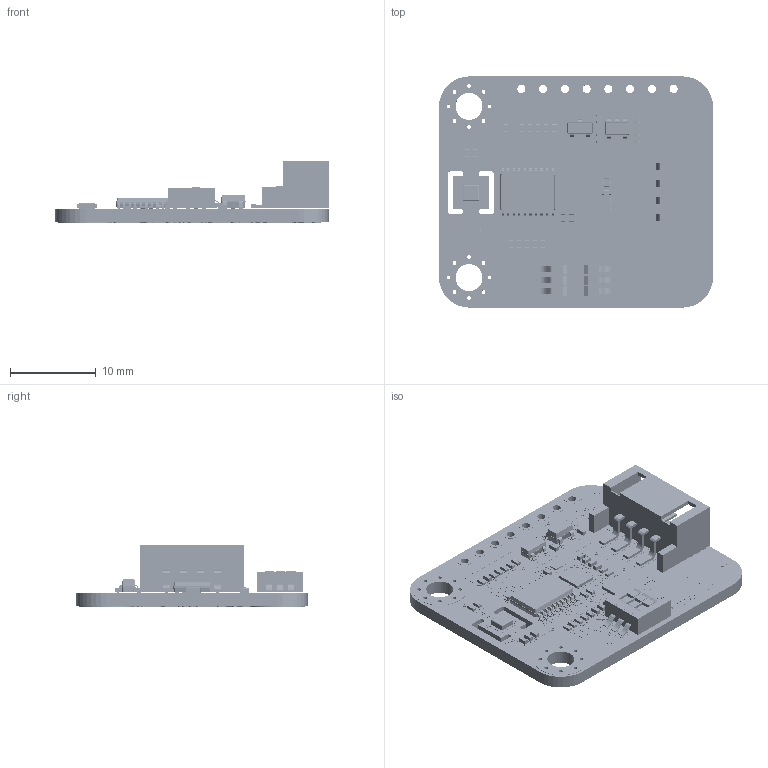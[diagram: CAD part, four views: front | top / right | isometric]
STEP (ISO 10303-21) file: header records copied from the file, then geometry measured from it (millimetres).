
FILE_DESCRIPTION(/* description */ (''),/* implementation_level */ '2;1');
FILE_NAME(/* name */ 'SEN0696',/* time_stamp */ '2026-03-20T13:49:35+08:00',/* author */ (''),/* organization */ (''),/* preprocessor_version */ 'ST-DEVELOPER v19.2',/* originating_system */ 'Rhino 8.0',/* authorisation */ '');
FILE_SCHEMA (('CONFIG_CONTROL_DESIGN'));
Products named in the file (1): Document
Bounding box: 32 x 27 x 7.18 mm (x, y, z)
Volume: 1501.8 mm3; surface area: 4372.3 mm2
Topology: 658 solids, 683 shells, 8286 faces, 21375 edges, 14451 vertices
Faces by surface type: plane 5852, cylinder 2234, bspline 200
Entity records: 247331 total; most frequent: CARTESIAN_POINT 77945, ORIENTED_EDGE 42144, EDGE_CURVE 21375, DIRECTION 17099, B_SPLINE_CURVE_WITH_KNOTS 16618, VERTEX_POINT 14451, AXIS2_PLACEMENT_3D 12567, EDGE_LOOP 9073
